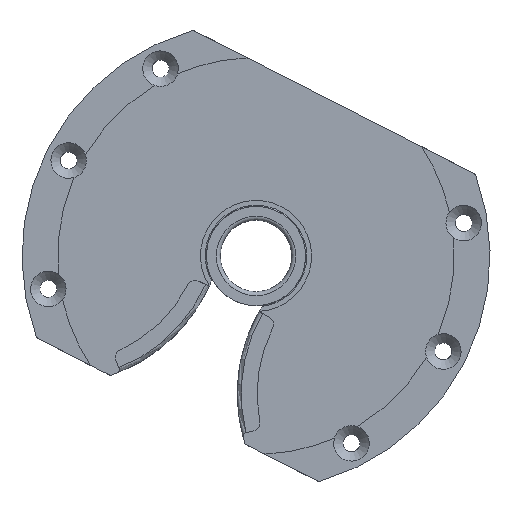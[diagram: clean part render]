
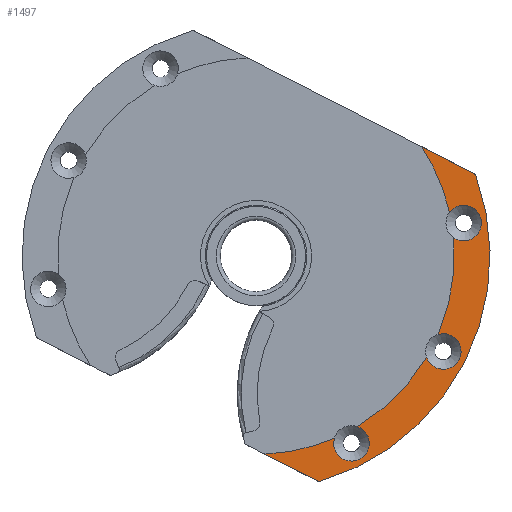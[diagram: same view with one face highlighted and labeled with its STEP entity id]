
A CAD part, left-side view. The second image highlights one B-rep face of the part: STEP entity #1497.
In plain terms, the highlighted planar face has unit normal (-1, 0, 0).
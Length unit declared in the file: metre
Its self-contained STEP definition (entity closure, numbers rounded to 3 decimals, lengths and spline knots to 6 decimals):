
#126=CIRCLE('',#1632,0.05);
#127=CIRCLE('',#1634,0.05);
#128=CIRCLE('',#1636,0.05);
#129=CIRCLE('',#1638,0.05);
#148=CIRCLE('',#1664,0.059);
#149=CIRCLE('',#1666,0.001);
#150=CIRCLE('',#1667,0.001);
#151=CIRCLE('',#1668,0.00448);
#152=CIRCLE('',#1669,0.00448);
#153=CIRCLE('',#1670,0.00448);
#154=CIRCLE('',#1671,0.001);
#155=CIRCLE('',#1672,0.001);
#381=ORIENTED_EDGE('',*,*,#818,.T.);
#382=ORIENTED_EDGE('',*,*,#820,.F.);
#383=ORIENTED_EDGE('',*,*,#779,.F.);
#384=ORIENTED_EDGE('',*,*,#821,.F.);
#385=ORIENTED_EDGE('',*,*,#776,.F.);
#386=ORIENTED_EDGE('',*,*,#822,.T.);
#387=ORIENTED_EDGE('',*,*,#766,.F.);
#388=ORIENTED_EDGE('',*,*,#823,.T.);
#389=ORIENTED_EDGE('',*,*,#770,.F.);
#390=ORIENTED_EDGE('',*,*,#824,.F.);
#391=ORIENTED_EDGE('',*,*,#772,.F.);
#392=ORIENTED_EDGE('',*,*,#825,.F.);
#393=ORIENTED_EDGE('',*,*,#791,.T.);
#394=ORIENTED_EDGE('',*,*,#826,.F.);
#766=EDGE_CURVE('',#991,#992,#126,.T.);
#770=EDGE_CURVE('',#993,#994,#127,.T.);
#772=EDGE_CURVE('',#995,#996,#128,.T.);
#776=EDGE_CURVE('',#997,#998,#129,.T.);
#779=EDGE_CURVE('',#999,#1000,#1114,.T.);
#791=EDGE_CURVE('',#1010,#1009,#1126,.T.);
#818=EDGE_CURVE('',#1027,#1026,#148,.T.);
#820=EDGE_CURVE('',#1000,#1026,#149,.F.);
#821=EDGE_CURVE('',#998,#999,#150,.T.);
#822=EDGE_CURVE('',#997,#992,#151,.F.);
#823=EDGE_CURVE('',#991,#994,#152,.F.);
#824=EDGE_CURVE('',#996,#993,#153,.T.);
#825=EDGE_CURVE('',#1010,#995,#154,.T.);
#826=EDGE_CURVE('',#1027,#1009,#155,.F.);
#991=VERTEX_POINT('',#2455);
#992=VERTEX_POINT('',#2456);
#993=VERTEX_POINT('',#2461);
#994=VERTEX_POINT('',#2463);
#995=VERTEX_POINT('',#2467);
#996=VERTEX_POINT('',#2468);
#997=VERTEX_POINT('',#2473);
#998=VERTEX_POINT('',#2475);
#999=VERTEX_POINT('',#2479);
#1000=VERTEX_POINT('',#2481);
#1009=VERTEX_POINT('',#2502);
#1010=VERTEX_POINT('',#2504);
#1026=VERTEX_POINT('',#2555);
#1027=VERTEX_POINT('',#2557);
#1114=LINE('',#2480,#1192);
#1126=LINE('',#2503,#1204);
#1192=VECTOR('',#1950,1.);
#1204=VECTOR('',#1964,1.);
#1261=EDGE_LOOP('',(#381,#382,#383,#384,#385,#386,#387,#388,#389,#390,#391,
#392,#393,#394));
#1373=FACE_BOUND('',#1261,.T.);
#1468=PLANE('',#1665);
#1497=ADVANCED_FACE('',(#1373),#1468,.F.);
#1632=AXIS2_PLACEMENT_3D('',#2454,#1925,#1926);
#1634=AXIS2_PLACEMENT_3D('',#2462,#1932,#1933);
#1636=AXIS2_PLACEMENT_3D('',#2466,#1937,#1938);
#1638=AXIS2_PLACEMENT_3D('',#2474,#1944,#1945);
#1664=AXIS2_PLACEMENT_3D('',#2556,#2018,#2019);
#1665=AXIS2_PLACEMENT_3D('',#2559,#2021,#2022);
#1666=AXIS2_PLACEMENT_3D('',#2560,#2023,#2024);
#1667=AXIS2_PLACEMENT_3D('',#2561,#2025,#2026);
#1668=AXIS2_PLACEMENT_3D('',#2562,#2027,#2028);
#1669=AXIS2_PLACEMENT_3D('',#2563,#2029,#2030);
#1670=AXIS2_PLACEMENT_3D('',#2564,#2031,#2032);
#1671=AXIS2_PLACEMENT_3D('',#2565,#2033,#2034);
#1672=AXIS2_PLACEMENT_3D('',#2566,#2035,#2036);
#1925=DIRECTION('',(-1.,0.,0.));
#1926=DIRECTION('',(0.,0.,1.));
#1932=DIRECTION('',(-1.,0.,0.));
#1933=DIRECTION('',(0.,0.,1.));
#1937=DIRECTION('',(-1.,0.,0.));
#1938=DIRECTION('',(0.,0.,1.));
#1944=DIRECTION('',(-1.,0.,0.));
#1945=DIRECTION('',(0.,0.,1.));
#1950=DIRECTION('',(0.,-0.891,-0.454));
#1964=DIRECTION('',(0.,-0.891,-0.454));
#2018=DIRECTION('',(-1.,0.,0.));
#2019=DIRECTION('',(0.,0.,1.));
#2021=DIRECTION('',(1.,0.,0.));
#2022=DIRECTION('',(0.,-1.,0.));
#2023=DIRECTION('',(-1.,0.,0.));
#2024=DIRECTION('',(0.,0.,1.));
#2025=DIRECTION('',(-1.,0.,0.));
#2026=DIRECTION('',(0.,0.,1.));
#2027=DIRECTION('',(-1.,0.,0.));
#2028=DIRECTION('',(0.,0.,1.));
#2029=DIRECTION('',(-1.,0.,0.));
#2030=DIRECTION('',(0.,0.,1.));
#2031=DIRECTION('',(-1.,0.,0.));
#2032=DIRECTION('',(0.,0.,1.));
#2033=DIRECTION('',(-1.,0.,0.));
#2034=DIRECTION('',(0.,0.,1.));
#2035=DIRECTION('',(-1.,0.,0.));
#2036=DIRECTION('',(0.,0.,1.));
#2454=CARTESIAN_POINT('',(-0.1535,0.017,-0.448));
#2455=CARTESIAN_POINT('',(-0.1535,-0.028924,-0.467774));
#2456=CARTESIAN_POINT('',(-0.1535,-0.032787,-0.443385));
#2461=CARTESIAN_POINT('',(-0.1535,-0.00853,-0.490991));
#2462=CARTESIAN_POINT('',(-0.1535,0.017,-0.448));
#2463=CARTESIAN_POINT('',(-0.1535,-0.025991,-0.47353));
#2466=CARTESIAN_POINT('',(-0.1535,0.017,-0.448));
#2467=CARTESIAN_POINT('',(-0.1535,0.014515,-0.497938));
#2468=CARTESIAN_POINT('',(-0.1535,-0.002774,-0.493924));
#2473=CARTESIAN_POINT('',(-0.1535,-0.031776,-0.437004));
#2474=CARTESIAN_POINT('',(-0.1535,0.017,-0.448));
#2475=CARTESIAN_POINT('',(-0.1535,-0.024861,-0.420657));
#2479=CARTESIAN_POINT('',(-0.1535,-0.024478,-0.420313));
#2480=CARTESIAN_POINT('',(-0.1535,-0.031489,-0.423885));
#2481=CARTESIAN_POINT('',(-0.1535,-0.037915,-0.427159));
#2502=CARTESIAN_POINT('',(-0.1535,0.001582,-0.504677));
#2503=CARTESIAN_POINT('',(-0.1535,0.008008,-0.501403));
#2504=CARTESIAN_POINT('',(-0.1535,0.015019,-0.49783));
#2555=CARTESIAN_POINT('',(-0.1535,-0.0384,-0.427707));
#2556=CARTESIAN_POINT('',(-0.1535,0.017,-0.448));
#2557=CARTESIAN_POINT('',(-0.1535,0.000854,-0.504748));
#2559=CARTESIAN_POINT('',(-0.1535,0.0005,-0.448));
#2560=CARTESIAN_POINT('',(-0.1535,-0.037461,-0.42805));
#2561=CARTESIAN_POINT('',(-0.1535,-0.024024,-0.421204));
#2562=CARTESIAN_POINT('',(-0.1535,-0.035347,-0.439709));
#2563=CARTESIAN_POINT('',(-0.1535,-0.030223,-0.472061));
#2564=CARTESIAN_POINT('',(-0.1535,-0.007061,-0.495223));
#2565=CARTESIAN_POINT('',(-0.1535,0.014565,-0.496939));
#2566=CARTESIAN_POINT('',(-0.1535,0.001128,-0.503786));
